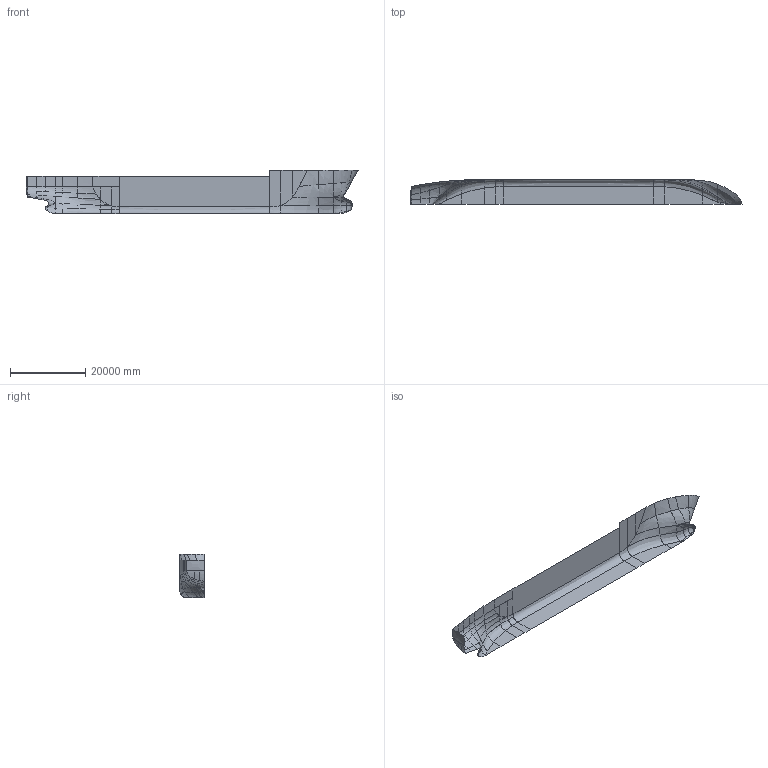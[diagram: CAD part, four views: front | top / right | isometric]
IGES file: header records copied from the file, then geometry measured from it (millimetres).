
Start section: Data transfer from Napa to IGES Project: N-STARHP1/A Command: TOIGES HULL,TYPE=128
Global section: file name: temp/nstar128.igs; native system: Napa  00-03-30  level D     NAPA Work Version 2000.0   (X); author: 4HHP; organization: Napa Oy/Helsinki; date: 000403.142200; units: metre
Bounding box: 88299.99 x 6500.56 x 11500 mm (x, y, z)
Surface area: 1339666278.7 mm2 (no closed solid volume)
Topology: 0 solids, 0 shells, 99 faces, 396 edges, 396 vertices
Faces by surface type: bspline 99
